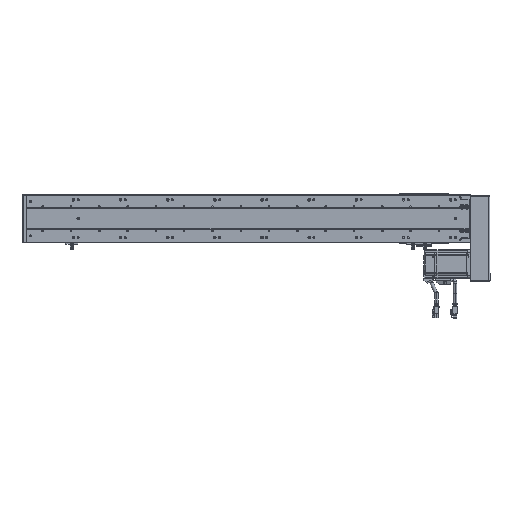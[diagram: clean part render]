
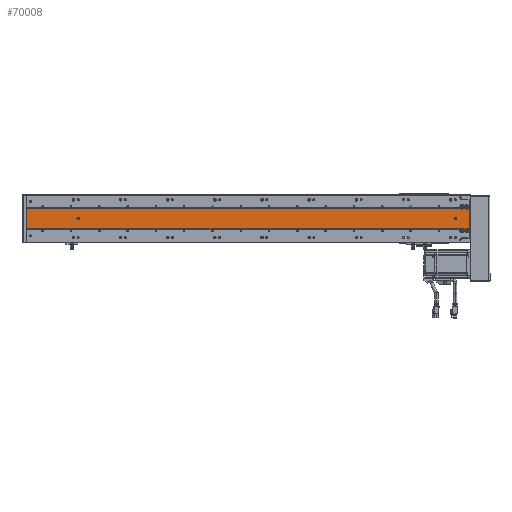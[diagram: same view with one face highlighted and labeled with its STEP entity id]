
A CAD part, front view. The second image highlights one B-rep face of the part: STEP entity #70008.
In plain terms, the highlighted planar face has unit normal (0, -1, 0).
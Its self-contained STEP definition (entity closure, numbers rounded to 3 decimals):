
#2178 = CARTESIAN_POINT ( 'NONE',  ( 137.903, 89.548, 909. ) ) ;
#2187 = CARTESIAN_POINT ( 'NONE',  ( 137.903, 89.548, 109. ) ) ;
#2241 = CARTESIAN_POINT ( 'NONE',  ( 142.903, 89.548, 909. ) ) ;
#2313 = CARTESIAN_POINT ( 'NONE',  ( 142.903, 89.548, 109. ) ) ;
#2516 = CARTESIAN_POINT ( 'NONE',  ( 118.817, 89.548, 0. ) ) ;
#2522 = CARTESIAN_POINT ( 'NONE',  ( 161.989, 89.548, 0. ) ) ;
#2558 = CARTESIAN_POINT ( 'NONE',  ( 118.817, 89.548, 926.302 ) ) ;
#2560 = CARTESIAN_POINT ( 'NONE',  ( 118.817, 89.548, 919.698 ) ) ;
#2575 = CARTESIAN_POINT ( 'NONE',  ( 118.817, 89.548, 939. ) ) ;
#2594 = CARTESIAN_POINT ( 'NONE',  ( 161.989, 89.548, 939. ) ) ;
#2635 = CARTESIAN_POINT ( 'NONE',  ( 118.817, 89.548, 929.698 ) ) ;
#6108 = CARTESIAN_POINT ( 'NONE',  ( 161.989, 89.548, 926.302 ) ) ;
#6116 = CARTESIAN_POINT ( 'NONE',  ( 161.989, 89.548, 929.698 ) ) ;
#6117 = CARTESIAN_POINT ( 'NONE',  ( 161.989, 89.548, 919.698 ) ) ;
#6161 = CARTESIAN_POINT ( 'NONE',  ( 161.989, 89.548, 936.302 ) ) ;
#7762 = FACE_BOUND ( 'NONE', #85819, .T. ) ;
#7765 = FACE_BOUND ( 'NONE', #85893, .T. ) ;
#7783 = FACE_OUTER_BOUND ( 'NONE', #85973, .T. ) ;
#10013 = CARTESIAN_POINT ( 'NONE',  ( 140.403, 89.548, 909. ) ) ;
#10039 = DIRECTION ( 'NONE',  ( 0., -1., 0. ) ) ;
#10041 = DIRECTION ( 'NONE',  ( 1., 0., 0. ) ) ;
#15630 = DIRECTION ( 'NONE',  ( 0., 0., -1. ) ) ;
#15644 = CARTESIAN_POINT ( 'NONE',  ( 161.989, 89.548, 939. ) ) ;
#15749 = CARTESIAN_POINT ( 'NONE',  ( 118.817, 89.548, 939. ) ) ;
#15750 = DIRECTION ( 'NONE',  ( 0., 0., -1. ) ) ;
#16551 = PLANE ( 'NONE',  #31261 ) ;
#16604 = CARTESIAN_POINT ( 'NONE',  ( 161.989, 89.548, 939. ) ) ;
#16633 = DIRECTION ( 'NONE',  ( -1., 0., 0. ) ) ;
#16677 = DIRECTION ( 'NONE',  ( 0., 1., 0. ) ) ;
#17293 = EDGE_CURVE ( 'NONE', #72863, #72603, #56543, .T. ) ;
#17312 = EDGE_CURVE ( 'NONE', #73504, #73449, #56535, .T. ) ;
#17317 = EDGE_CURVE ( 'NONE', #73537, #74807, #56510, .T. ) ;
#17318 = EDGE_CURVE ( 'NONE', #74807, #73619, #56519, .T. ) ;
#17327 = EDGE_CURVE ( 'NONE', #73485, #73523, #56552, .T. ) ;
#17371 = EDGE_CURVE ( 'NONE', #73533, #22494, #56641, .T. ) ;
#17372 = EDGE_CURVE ( 'NONE', #72726, #72561, #56632, .T. ) ;
#18726 = AXIS2_PLACEMENT_3D ( 'NONE', #51727, #51734, #51729 ) ;
#18728 = AXIS2_PLACEMENT_3D ( 'NONE', #51785, #51764, #51786 ) ;
#18737 = AXIS2_PLACEMENT_3D ( 'NONE', #51687, #51627, #51675 ) ;
#18800 = AXIS2_PLACEMENT_3D ( 'NONE', #51889, #51901, #51899 ) ;
#22457 = VERTEX_POINT ( 'NONE', #6108 ) ;
#22461 = VERTEX_POINT ( 'NONE', #6117 ) ;
#22474 = VERTEX_POINT ( 'NONE', #6116 ) ;
#22494 = VERTEX_POINT ( 'NONE', #6161 ) ;
#31261 = AXIS2_PLACEMENT_3D ( 'NONE', #16604, #16677, #16633 ) ;
#34569 = EDGE_CURVE ( 'NONE', #22474, #22494, #77309, .T. ) ;
#34615 = EDGE_CURVE ( 'NONE', #22461, #22457, #77279, .T. ) ;
#35228 = EDGE_CURVE ( 'NONE', #72561, #72726, #71892, .T. ) ;
#35277 = EDGE_CURVE ( 'NONE', #72603, #72863, #71932, .T. ) ;
#35716 = EDGE_CURVE ( 'NONE', #22474, #22457, #72683, .T. ) ;
#35812 = EDGE_CURVE ( 'NONE', #73619, #73504, #66175, .T. ) ;
#35825 = EDGE_CURVE ( 'NONE', #73449, #73485, #66147, .T. ) ;
#35848 = EDGE_CURVE ( 'NONE', #73537, #73533, #66241, .T. ) ;
#35859 = EDGE_CURVE ( 'NONE', #22461, #73523, #66201, .T. ) ;
#41172 = ORIENTED_EDGE ( 'NONE', *, *, #17312, .T. ) ;
#41185 = ORIENTED_EDGE ( 'NONE', *, *, #17318, .T. ) ;
#41186 = ORIENTED_EDGE ( 'NONE', *, *, #35277, .F. ) ;
#41188 = ORIENTED_EDGE ( 'NONE', *, *, #17293, .F. ) ;
#41191 = ORIENTED_EDGE ( 'NONE', *, *, #35812, .T. ) ;
#41193 = ORIENTED_EDGE ( 'NONE', *, *, #17317, .T. ) ;
#41196 = ORIENTED_EDGE ( 'NONE', *, *, #34615, .T. ) ;
#41199 = ORIENTED_EDGE ( 'NONE', *, *, #35825, .T. ) ;
#41201 = ORIENTED_EDGE ( 'NONE', *, *, #34569, .T. ) ;
#41207 = ORIENTED_EDGE ( 'NONE', *, *, #35228, .F. ) ;
#41208 = ORIENTED_EDGE ( 'NONE', *, *, #35859, .F. ) ;
#41214 = ORIENTED_EDGE ( 'NONE', *, *, #17371, .F. ) ;
#41217 = ORIENTED_EDGE ( 'NONE', *, *, #35716, .F. ) ;
#41228 = ORIENTED_EDGE ( 'NONE', *, *, #17372, .F. ) ;
#41256 = ORIENTED_EDGE ( 'NONE', *, *, #35848, .F. ) ;
#41290 = ORIENTED_EDGE ( 'NONE', *, *, #17327, .T. ) ;
#43332 = CARTESIAN_POINT ( 'NONE',  ( 118.817, 89.548, 936.302 ) ) ;
#51627 = DIRECTION ( 'NONE',  ( 0., -1., 0. ) ) ;
#51675 = DIRECTION ( 'NONE',  ( 1., 0., 0. ) ) ;
#51687 = CARTESIAN_POINT ( 'NONE',  ( 140.403, 89.548, 909. ) ) ;
#51727 = CARTESIAN_POINT ( 'NONE',  ( 115.403, 89.548, 923. ) ) ;
#51728 = CARTESIAN_POINT ( 'NONE',  ( 118.817, 89.548, 939. ) ) ;
#51729 = DIRECTION ( 'NONE',  ( -1., 0., 0. ) ) ;
#51734 = DIRECTION ( 'NONE',  ( 0., 1., 0. ) ) ;
#51756 = DIRECTION ( 'NONE',  ( 0., 0., -1. ) ) ;
#51764 = DIRECTION ( 'NONE',  ( 0., 1., 0. ) ) ;
#51779 = DIRECTION ( 'NONE',  ( 1., 0., 0. ) ) ;
#51785 = CARTESIAN_POINT ( 'NONE',  ( 115.403, 89.548, 933. ) ) ;
#51786 = DIRECTION ( 'NONE',  ( -1., 0., 0. ) ) ;
#51787 = CARTESIAN_POINT ( 'NONE',  ( 161.989, 89.548, 0. ) ) ;
#51879 = CARTESIAN_POINT ( 'NONE',  ( 161.989, 89.548, 939. ) ) ;
#51889 = CARTESIAN_POINT ( 'NONE',  ( 140.403, 89.548, 109. ) ) ;
#51899 = DIRECTION ( 'NONE',  ( 1., 0., 0. ) ) ;
#51901 = DIRECTION ( 'NONE',  ( 0., -1., 0. ) ) ;
#51907 = DIRECTION ( 'NONE',  ( 0., 0., -1. ) ) ;
#56510 = LINE ( 'NONE', #51728, #56538 ) ;
#56519 = CIRCLE ( 'NONE', #18728, 4.75 ) ;
#56535 = CIRCLE ( 'NONE', #18726, 4.75 ) ;
#56538 = VECTOR ( 'NONE', #51756, 1000. ) ;
#56543 = CIRCLE ( 'NONE', #18737, 2.5 ) ;
#56552 = LINE ( 'NONE', #51787, #56555 ) ;
#56555 = VECTOR ( 'NONE', #51779, 1000. ) ;
#56632 = CIRCLE ( 'NONE', #18800, 2.5 ) ;
#56641 = LINE ( 'NONE', #51879, #56669 ) ;
#56669 = VECTOR ( 'NONE', #51907, 1000. ) ;
#65612 = DIRECTION ( 'NONE',  ( 0., 0., -1. ) ) ;
#65621 = CARTESIAN_POINT ( 'NONE',  ( 118.817, 89.548, 939. ) ) ;
#65660 = CARTESIAN_POINT ( 'NONE',  ( 161.989, 89.548, 939. ) ) ;
#65675 = DIRECTION ( 'NONE',  ( 0., 0., -1. ) ) ;
#65699 = DIRECTION ( 'NONE',  ( 1., 0., 0. ) ) ;
#65722 = CARTESIAN_POINT ( 'NONE',  ( 161.989, 89.548, 939. ) ) ;
#66147 = LINE ( 'NONE', #65621, #66183 ) ;
#66175 = LINE ( 'NONE', #15749, #66176 ) ;
#66176 = VECTOR ( 'NONE', #15750, 1000. ) ;
#66183 = VECTOR ( 'NONE', #65612, 1000. ) ;
#66195 = VECTOR ( 'NONE', #65675, 1000. ) ;
#66201 = LINE ( 'NONE', #65660, #66195 ) ;
#66223 = VECTOR ( 'NONE', #65699, 1000. ) ;
#66241 = LINE ( 'NONE', #65722, #66223 ) ;
#67699 = DIRECTION ( 'NONE',  ( 1., 0., 0. ) ) ;
#67707 = CARTESIAN_POINT ( 'NONE',  ( 140.403, 89.548, 109. ) ) ;
#67710 = DIRECTION ( 'NONE',  ( 0., -1., 0. ) ) ;
#70008 = ADVANCED_FACE ( 'NONE', ( #7762, #7765, #7783 ), #16551, .F. ) ;
#70912 = AXIS2_PLACEMENT_3D ( 'NONE', #76717, #76710, #76718 ) ;
#70923 = AXIS2_PLACEMENT_3D ( 'NONE', #76610, #76642, #76611 ) ;
#71278 = AXIS2_PLACEMENT_3D ( 'NONE', #67707, #67710, #67699 ) ;
#71629 = AXIS2_PLACEMENT_3D ( 'NONE', #10013, #10039, #10041 ) ;
#71892 = CIRCLE ( 'NONE', #71278, 2.5 ) ;
#71932 = CIRCLE ( 'NONE', #71629, 2.5 ) ;
#72561 = VERTEX_POINT ( 'NONE', #2187 ) ;
#72603 = VERTEX_POINT ( 'NONE', #2178 ) ;
#72683 = LINE ( 'NONE', #15644, #72883 ) ;
#72726 = VERTEX_POINT ( 'NONE', #2313 ) ;
#72863 = VERTEX_POINT ( 'NONE', #2241 ) ;
#72883 = VECTOR ( 'NONE', #15630, 1000. ) ;
#73449 = VERTEX_POINT ( 'NONE', #2560 ) ;
#73485 = VERTEX_POINT ( 'NONE', #2516 ) ;
#73504 = VERTEX_POINT ( 'NONE', #2558 ) ;
#73523 = VERTEX_POINT ( 'NONE', #2522 ) ;
#73533 = VERTEX_POINT ( 'NONE', #2594 ) ;
#73537 = VERTEX_POINT ( 'NONE', #2575 ) ;
#73619 = VERTEX_POINT ( 'NONE', #2635 ) ;
#74807 = VERTEX_POINT ( 'NONE', #43332 ) ;
#76610 = CARTESIAN_POINT ( 'NONE',  ( 165.403, 89.548, 933. ) ) ;
#76611 = DIRECTION ( 'NONE',  ( -1., 0., 0. ) ) ;
#76642 = DIRECTION ( 'NONE',  ( 0., 1., 0. ) ) ;
#76710 = DIRECTION ( 'NONE',  ( 0., 1., 0. ) ) ;
#76717 = CARTESIAN_POINT ( 'NONE',  ( 165.403, 89.548, 923. ) ) ;
#76718 = DIRECTION ( 'NONE',  ( -1., 0., 0. ) ) ;
#77279 = CIRCLE ( 'NONE', #70912, 4.75 ) ;
#77309 = CIRCLE ( 'NONE', #70923, 4.75 ) ;
#85819 = EDGE_LOOP ( 'NONE', ( #41188, #41186 ) ) ;
#85893 = EDGE_LOOP ( 'NONE', ( #41228, #41207 ) ) ;
#85973 = EDGE_LOOP ( 'NONE', ( #41217, #41201, #41214, #41256, #41193, #41185, #41191, #41172, #41199, #41290, #41208, #41196 ) ) ;
